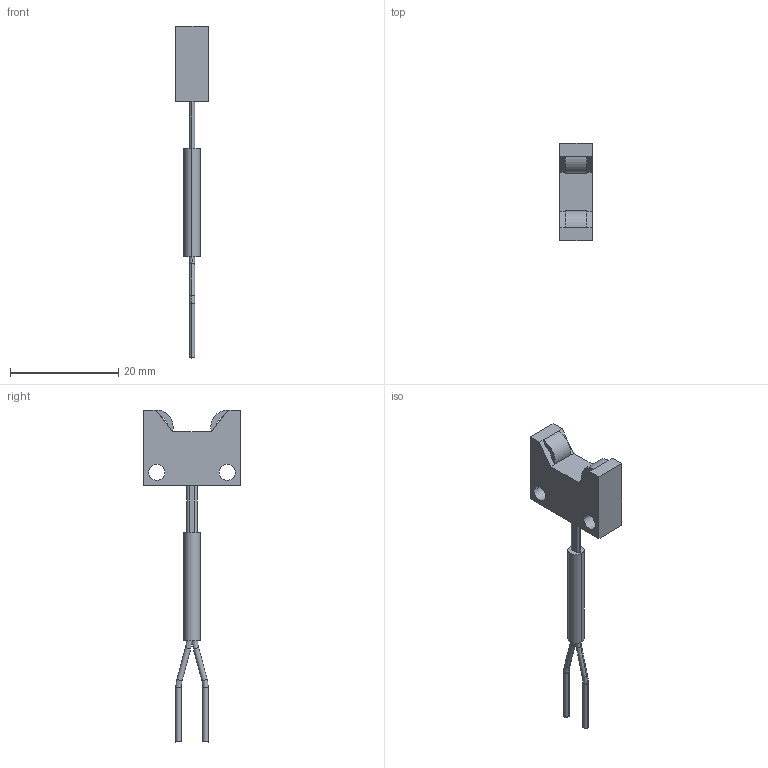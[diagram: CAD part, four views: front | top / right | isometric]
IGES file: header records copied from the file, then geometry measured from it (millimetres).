
Start section: SolidWorks IGES FILE using analytic representation for surfaces
Global section: file name: C:\Documents and Settings\yk0651\デスクトップ\3D_catalog_050904\0_IGES\FD-L4.IGS; native system: SolidWorks 2004 by SolidWorks Corporation; preprocessor: Version 5.3; author: yk0651; date: 050904.184800; units: millimetre
Bounding box: 6 x 18 x 61.3 mm (x, y, z)
Volume: 1400.8 mm3; surface area: 1332.5 mm2
Topology: 1 solids, 1 shells, 50 faces, 124 edges, 76 vertices
Faces by surface type: plane 20, bspline 16, revolution 14
